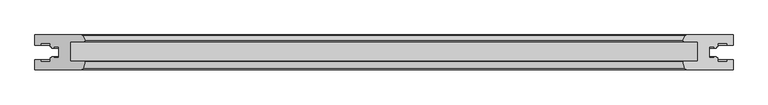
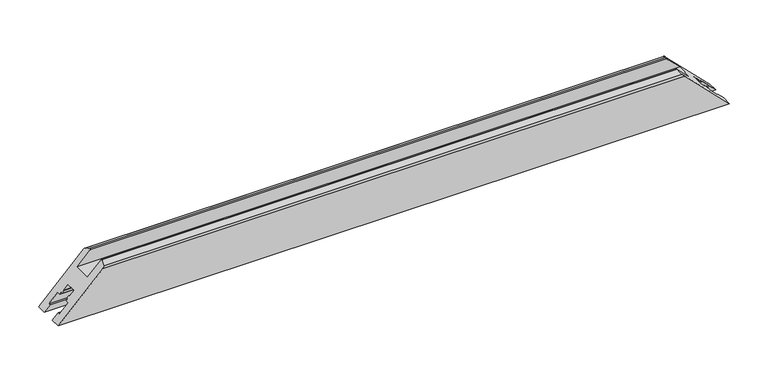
"""IFC4 building model written with IfcOpenShell, lengths in millimetres: proxy geometry, Weiku - Montante - Folha de correr 02.2.01.020 : Weiku - Montante - Folha de correr 02.2.01.020."""

from ifc_helpers import new_model, si_unit, frame, origin, place, context, project, spatial, ellipse_curve, source, transform, mapped, element, save
from ifc_brep_helpers import plane_surface, cylinder_surface, advanced_brep


def generic_models_1e2fafc2(model_context):
    return source(origin(), model_context, "Body", "AdvancedBrep", [
        advanced_brep(
        [(501.125, -50.0, 0.0), (434.6254942, -50.0, 66.4995058), (-434.6254942, -50.0, 66.4995058), (-501.125, -50.0, 0.0), (-501.125, -35.5, 0.0), (501.125, -35.5, 0.0), (-501.125, 0.0, 0.0), (-433.6129875, 0.0, 67.5120125), (433.6129875, 0.0, 67.5120125), (501.125, 0.0, 0.0), (-431.7277168, -47.7764571, 69.3972832), (-429.1427981, -38.1294095, 71.9822019), (-429.6257611, -37.5, 71.4992389), (-450.1257611, -37.5, 50.9992389), (-450.1257611, -9.5, 50.9992389), (-430.3391895, -9.5, 70.7858105), (-429.1770406, -7.617411, 71.9479594), (-432.7190268, -0.5518546, 68.4059732), (-501.125, -14.5, 0.0), (-492.525, -14.5, 8.6), (-492.525, -11.7, 8.6), (-479.325, -11.7, 21.8), (-479.325, -16.9, 21.8), (-476.9774152, -16.9, 24.1475848), (-477.1523926, -18.9, 23.9726074), (-474.325, -18.9, 26.8), (-474.325, -16.9, 26.8), (-467.125, -16.9, 34.0), (-467.125, -33.1, 34.0), (-474.325, -33.1, 26.8), (-474.325, -31.1, 26.8), (-477.1523926, -31.1, 23.9726074), (-476.9774152, -33.1, 24.1475848), (-479.325, -33.1, 21.8), (-479.325, -38.3, 21.8), (-492.525, -38.3, 8.6), (-492.525, -35.5, 8.6), (492.525, -35.5, 8.6), (492.525, -38.3, 8.6), (479.325, -38.3, 21.8), (479.325, -33.1, 21.8), (476.9774152, -33.1, 24.1475848), (477.1523926, -31.1, 23.9726074), (474.325, -31.1, 26.8), (474.325, -33.1, 26.8), (467.125, -33.1, 34.0), (467.125, -16.9, 34.0), (474.325, -16.9, 26.8), (474.325, -18.9, 26.8), (477.1523926, -18.9, 23.9726074), (476.9774152, -16.9, 24.1475848), (479.325, -16.9, 21.8), (479.325, -11.7, 21.8), (492.525, -11.7, 8.6), (492.525, -14.5, 8.6), (501.125, -14.5, 0.0), (432.7190268, -0.5518546, 68.4059732), (429.1770406, -7.617411, 71.9479594), (430.3391895, -9.5, 70.7858105), (450.1257611, -9.5, 50.9992389), (450.1257611, -37.5, 50.9992389), (429.6257611, -37.5, 71.4992389), (429.1427981, -38.1294095, 71.9822019), (431.7277168, -47.7764571, 69.3972832)],
        [
            (0, 1),
            (1, 2),
            (2, 3),
            (3, 0),
            (3, 4),
            (4, 5),
            (5, 0),
            (6, 7),
            (7, 8),
            (8, 9),
            (9, 6),
            (2, 10, ellipse_curve(frame((-434.6254942, -47.0, 66.4995058), z_axis=(-0.707106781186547, 0.0, 0.7071067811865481), x_axis=(-0.7071067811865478, 0.0, -0.707106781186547)), 4.2426407, 3.0)),
            (10, 11),
            (11, 12, ellipse_curve(frame((-429.6257611, -38.0, 71.4992389), z_axis=(-0.707106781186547, 0.0, 0.7071067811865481), x_axis=(-0.7071067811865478, 0.0, -0.707106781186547)), 0.7071068, 0.5)),
            (12, 13),
            (13, 14),
            (14, 15),
            (15, 16, ellipse_curve(frame((-430.3391895, -8.2, 70.7858105), z_axis=(-0.707106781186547, 0.0, 0.7071067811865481), x_axis=(-0.7071067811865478, 0.0, -0.707106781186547)), 1.8384776, 1.3)),
            (16, 17),
            (17, 7, ellipse_curve(frame((-433.6129875, -1.0, 67.5120125), z_axis=(-0.707106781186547, 0.0, 0.7071067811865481), x_axis=(-0.7071067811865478, 0.0, -0.707106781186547)), 1.4142136, 1.0)),
            (6, 18),
            (18, 19),
            (19, 20),
            (20, 21),
            (21, 22),
            (22, 23),
            (23, 24),
            (24, 25),
            (25, 26),
            (26, 27),
            (27, 28),
            (28, 29),
            (29, 30),
            (30, 31),
            (31, 32),
            (32, 33),
            (33, 34),
            (34, 35),
            (35, 36),
            (36, 4),
            (5, 37),
            (37, 38),
            (38, 39),
            (39, 40),
            (40, 41),
            (41, 42),
            (42, 43),
            (43, 44),
            (44, 45),
            (45, 46),
            (46, 47),
            (47, 48),
            (48, 49),
            (49, 50),
            (50, 51),
            (51, 52),
            (52, 53),
            (53, 54),
            (54, 55),
            (55, 9),
            (8, 56, ellipse_curve(frame((433.6129875, -1.0, 67.5120125), z_axis=(0.7071067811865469, 0.0, 0.7071067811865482), x_axis=(-0.707106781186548, 0.0, 0.7071067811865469)), 1.4142136, 1.0)),
            (56, 57),
            (57, 58, ellipse_curve(frame((430.3391895, -8.2, 70.7858105), z_axis=(0.7071067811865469, 0.0, 0.7071067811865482), x_axis=(-0.707106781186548, 0.0, 0.7071067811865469)), 1.8384776, 1.3)),
            (58, 59),
            (59, 60),
            (60, 61),
            (61, 62, ellipse_curve(frame((429.6257611, -38.0, 71.4992389), z_axis=(0.7071067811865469, 0.0, 0.7071067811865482), x_axis=(-0.707106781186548, 0.0, 0.7071067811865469)), 0.7071068, 0.5)),
            (62, 63),
            (63, 1, ellipse_curve(frame((434.6254942, -47.0, 66.4995058), z_axis=(0.7071067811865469, 0.0, 0.7071067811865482), x_axis=(-0.707106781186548, 0.0, 0.7071067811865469)), 4.2426407, 3.0)),
            (17, 56),
            (16, 57),
            (15, 58),
            (14, 59),
            (13, 60),
            (12, 61),
            (11, 62),
            (10, 63),
            (36, 37),
            (35, 38),
            (34, 39),
            (33, 40),
            (32, 41),
            (31, 42),
            (30, 43),
            (29, 44),
            (28, 45),
            (27, 46),
            (26, 47),
            (25, 48),
            (24, 49),
            (23, 50),
            (22, 51),
            (21, 52),
            (20, 53),
            (19, 54),
            (18, 55),
        ],
        [
            plane_surface(frame((-501.125, -50.0, 66.4995058), z_axis=(0.0, -1.0, 0.0), x_axis=(1.0, 0.0, 0.0))),
            plane_surface(frame((-501.125, -50.0, 0.0), z_axis=(0.0, 0.0, -1.0), x_axis=(1.0, 0.0, 0.0))),
            plane_surface(frame((-501.125, 0.0, 0.0), z_axis=(0.0, 1.0, 0.0), x_axis=(1.0, 0.0, 0.0))),
            plane_surface(frame((-529.4092712, 0.0, -28.2842712), z_axis=(-0.707106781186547, 0.0, 0.7071067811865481), x_axis=(0.0, -1.0, 0.0))),
            plane_surface(frame((421.125, 0.0, 80.0), z_axis=(0.7071067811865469, 0.0, 0.7071067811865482), x_axis=(0.0, -1.0, 0.0))),
            cylinder_surface(frame((-501.125, -1.0, 67.5120125), z_axis=(-1.0, 0.0, 0.0), x_axis=(0.0, -1.0, 0.0)), 1.0),
            plane_surface(frame((-501.125, -0.5518546, 68.4059732), z_axis=(0.0, 0.4481453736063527, 0.8939606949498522), x_axis=(1.0, 0.0, 0.0))),
            cylinder_surface(frame((-501.125, -8.2, 70.7858105), z_axis=(-1.0, 0.0, 0.0), x_axis=(0.0, -1.0, 0.0)), 1.3),
            plane_surface(frame((-501.125, -9.5, 70.7858105), z_axis=(0.0, -1.0, 0.0), x_axis=(1.0, 0.0, 0.0))),
            plane_surface(frame((-501.125, -9.5, 50.9992389), z_axis=(0.0, 0.0, 1.0), x_axis=(1.0, 0.0, 0.0))),
            plane_surface(frame((-501.125, -37.5, 50.9992389), z_axis=(0.0, 1.0, 0.0), x_axis=(1.0, 0.0, 0.0))),
            cylinder_surface(frame((-501.125, -38.0, 71.4992389), z_axis=(-1.0, 0.0, 0.0), x_axis=(0.0, -1.0, 0.0)), 0.5),
            plane_surface(frame((-501.125, -38.1294095, 71.9822019), z_axis=(0.0, -0.2588190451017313, 0.9659258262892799), x_axis=(1.0, 0.0, 0.0))),
            cylinder_surface(frame((-501.125, -47.0, 66.4995058), z_axis=(-1.0, 0.0, 0.0), x_axis=(0.0, -1.0, 0.0)), 3.0),
            plane_surface(frame((-501.125, -35.5, 0.0), z_axis=(0.0, 1.0, 0.0), x_axis=(1.0, 0.0, 0.0))),
            plane_surface(frame((-501.125, -35.5, 8.6), z_axis=(0.0, 0.0, 1.0), x_axis=(1.0, 0.0, 0.0))),
            plane_surface(frame((-501.125, -38.3, 8.6), z_axis=(0.0, 1.0, 0.0), x_axis=(1.0, 0.0, 0.0))),
            plane_surface(frame((-501.125, -38.3, 21.8), z_axis=(0.0, 0.0, -1.0), x_axis=(1.0, 0.0, 0.0))),
            plane_surface(frame((-501.125, -33.1, 21.8), z_axis=(0.0, 1.0, 0.0), x_axis=(1.0, 0.0, 0.0))),
            plane_surface(frame((-501.125, -33.1, 24.1475848), z_axis=(0.0, -0.08715574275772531, -0.9961946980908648), x_axis=(1.0, 0.0, 0.0))),
            plane_surface(frame((-501.125, -31.1, 23.9726074), z_axis=(0.0, 1.0, 0.0), x_axis=(1.0, 0.0, 0.0))),
            plane_surface(frame((-501.125, -31.1, 26.8), z_axis=(0.0, 0.0, 1.0), x_axis=(1.0, 0.0, 0.0))),
            plane_surface(frame((-501.125, -33.1, 26.8), z_axis=(0.0, 1.0, 0.0), x_axis=(1.0, 0.0, 0.0))),
            plane_surface(frame((-501.125, -33.1, 34.0), z_axis=(0.0, 0.0, -1.0), x_axis=(1.0, 0.0, 0.0))),
            plane_surface(frame((-501.125, -16.9, 34.0), z_axis=(0.0, -1.0, 0.0), x_axis=(1.0, 0.0, 0.0))),
            plane_surface(frame((-501.125, -16.9, 26.8), z_axis=(0.0, 0.0, 1.0), x_axis=(1.0, 0.0, 0.0))),
            plane_surface(frame((-501.125, -18.9, 26.8), z_axis=(0.0, -1.0, 0.0), x_axis=(1.0, 0.0, 0.0))),
            plane_surface(frame((-501.125, -18.9, 23.9726074), z_axis=(0.0, 0.08715574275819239, -0.9961946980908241), x_axis=(1.0, 0.0, 0.0))),
            plane_surface(frame((-501.125, -16.9, 24.1475848), z_axis=(0.0, -1.0, 0.0), x_axis=(1.0, 0.0, 0.0))),
            plane_surface(frame((-501.125, -16.9, 21.8), z_axis=(0.0, 0.0, -1.0), x_axis=(1.0, 0.0, 0.0))),
            plane_surface(frame((-501.125, -11.7, 21.8), z_axis=(0.0, -1.0, 0.0), x_axis=(1.0, 0.0, 0.0))),
            plane_surface(frame((-501.125, -11.7, 8.6), z_axis=(0.0, 0.0, 1.0), x_axis=(1.0, 0.0, 0.0))),
            plane_surface(frame((-501.125, -14.5, 8.6), z_axis=(0.0, -1.0, 0.0), x_axis=(1.0, 0.0, 0.0))),
            plane_surface(frame((-501.125, -14.5, 0.0), z_axis=(0.0, 0.0, -1.0), x_axis=(1.0, 0.0, 0.0))),
        ],
        [
            (0, [[1, 2, 3, 4]]),
            (1, [[5, 6, 7, -4]]),
            (2, [[8, 9, 10, 11]]),
            (3, [[12, 13, 14, 15, 16, 17, 18, 19, 20, -8, 21, 22, 23, 24, 25, 26, 27, 28, 29, 30, 31, 32, 33, 34, 35, 36, 37, 38, 39, 40, -5, -3]]),
            (4, [[-7, 41, 42, 43, 44, 45, 46, 47, 48, 49, 50, 51, 52, 53, 54, 55, 56, 57, 58, 59, 60, -10, 61, 62, 63, 64, 65, 66, 67, 68, 69, -1]]),
            (5, [[70, -61, -9, -20]]),
            (6, [[71, -62, -70, -19]]),
            (7, [[72, -63, -71, -18]]),
            (8, [[73, -64, -72, -17]]),
            (9, [[74, -65, -73, -16]]),
            (10, [[75, -66, -74, -15]]),
            (11, [[76, -67, -75, -14]]),
            (12, [[77, -68, -76, -13]]),
            (13, [[-2, -69, -77, -12]]),
            (14, [[-40, 78, -41, -6]]),
            (15, [[79, -42, -78, -39]]),
            (16, [[80, -43, -79, -38]]),
            (17, [[81, -44, -80, -37]]),
            (18, [[82, -45, -81, -36]]),
            (19, [[83, -46, -82, -35]]),
            (20, [[84, -47, -83, -34]]),
            (21, [[85, -48, -84, -33]]),
            (22, [[86, -49, -85, -32]]),
            (23, [[87, -50, -86, -31]]),
            (24, [[88, -51, -87, -30]]),
            (25, [[89, -52, -88, -29]]),
            (26, [[90, -53, -89, -28]]),
            (27, [[91, -54, -90, -27]]),
            (28, [[92, -55, -91, -26]]),
            (29, [[93, -56, -92, -25]]),
            (30, [[94, -57, -93, -24]]),
            (31, [[95, -58, -94, -23]]),
            (32, [[-59, -95, -22, 96]]),
            (33, [[-60, -96, -21, -11]]),
        ],
    ),
    ])


if __name__ == "__main__":
    model = new_model("IFC4")
    model_context = context("Model", 3, world=origin())
    ifc_project = project(units=[si_unit("LENGTHUNIT", "METRE", prefix="MILLI")], contexts=[model_context])
    site = spatial("IfcSite", under=ifc_project)
    building = spatial("IfcBuilding", under=site)
    placement = place(None, origin())
    generic_models_shape = generic_models_1e2fafc2(model_context)
    element("IfcBuildingElementProxy", 1, Name="Weiku - Montante - Folha de correr 02.2.01.020 : Weiku - Montante - Folha de correr 02.2.01.020", ObjectType="Weiku - Montante - Folha de correr 02.2.01.020 : Weiku - Montante - Folha de correr 02.2.01.020", at=placement, inside=building, context=model_context, shape_type="MappedRepresentation", body=[
        mapped(generic_models_shape, transform((0.0, 0.0, 0.0), x_axis=(1.0, 0.0, 0.0), y_axis=(0.0, 1.0, 0.0), z_axis=(0.0, 0.0, 1.0))),
    ])
    save(model, "model.ifc")
